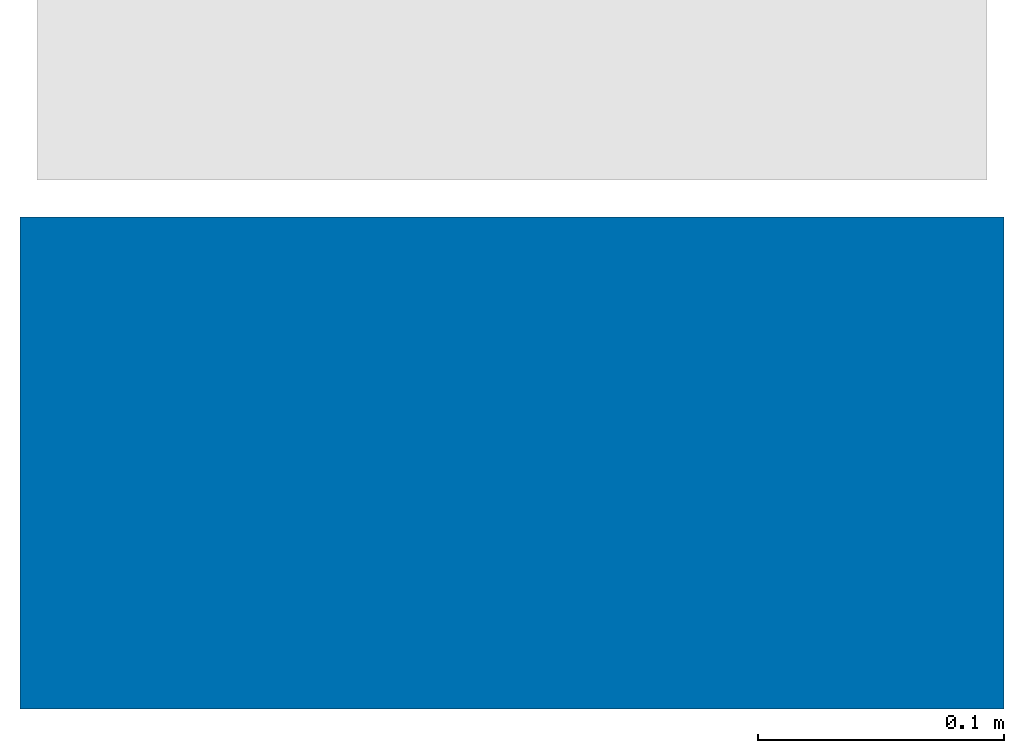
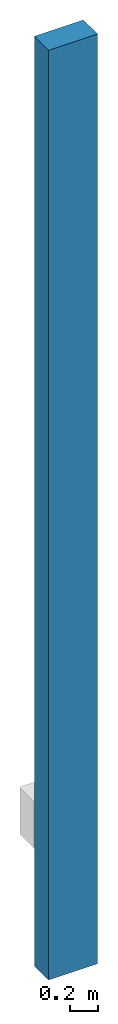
# One storey, part 1 of 2: 1 wall.
"""IFC2X3 building model written with IfcOpenShell, lengths in millimetres."""

from ifc_helpers import new_model, entity, si_unit, converted_unit, derived_unit, direction, frame, frame_2d, origin, place, context, subcontext, project, spatial, rectangle, extrude, material, layer, layer_set, layer_usage, type_object, element, save


model = new_model("IFC2X3")

# Units and contexts
model_context = context("Model", 3, precision=0.01, world=origin(), true_north=direction((6.12303176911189e-17, 1.0)))
context_of_model = context(None, 3, precision=0.01, world=origin(), true_north=direction((6.12303176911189e-17, 1.0)))
body_context = subcontext(model_context, "Body", "Model", "MODEL_VIEW")
ifc_project = project(units=[si_unit("LENGTHUNIT", "METRE", prefix="MILLI"), si_unit("AREAUNIT", "SQUARE_METRE"), si_unit("VOLUMEUNIT", "CUBIC_METRE"), converted_unit("PLANEANGLEUNIT", "DEGREE", entity("IfcRatioMeasure", 0.0174532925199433), si_unit("PLANEANGLEUNIT", "RADIAN"), dimensions=[0, 0, 0, 0, 0, 0, 0]), si_unit("MASSUNIT", "GRAM", prefix="KILO"), si_unit("TIMEUNIT", "SECOND"), si_unit("FREQUENCYUNIT", "HERTZ"), si_unit("THERMODYNAMICTEMPERATUREUNIT", "DEGREE_CELSIUS"), derived_unit("THERMALTRANSMITTANCEUNIT", [(si_unit("MASSUNIT", "GRAM", prefix="KILO"), 1), (si_unit("THERMODYNAMICTEMPERATUREUNIT", "KELVIN"), -1), (si_unit("TIMEUNIT", "SECOND"), -3)]), derived_unit("VOLUMETRICFLOWRATEUNIT", [(si_unit("LENGTHUNIT", "METRE"), 3), (si_unit("TIMEUNIT", "SECOND"), -1)]), si_unit("ELECTRICCURRENTUNIT", "AMPERE"), si_unit("ELECTRICVOLTAGEUNIT", "VOLT"), si_unit("POWERUNIT", "WATT"), si_unit("FORCEUNIT", "NEWTON", prefix="KILO"), si_unit("ILLUMINANCEUNIT", "LUX"), si_unit("LUMINOUSFLUXUNIT", "LUMEN"), si_unit("LUMINOUSINTENSITYUNIT", "CANDELA"), si_unit("PRESSUREUNIT", "PASCAL")], contexts=[model_context, context_of_model])

# Site, building, storey
site_placement = place(None, origin())
site = spatial("IfcSite", under=ifc_project, at=site_placement, Name="Default", CompositionType="ELEMENT")
building_placement = place(site_placement, origin())
building = spatial("IfcBuilding", under=site, at=building_placement, CompositionType="ELEMENT")
storey_placement = place(building_placement, origin())
storey = spatial("IfcBuildingStorey", under=building, at=storey_placement, Name="Level 1", CompositionType="ELEMENT", Elevation=0.0)

# Wall
ifc_material = material(Name="Default Wall")
ifc_layer = layer(ifc_material, 200.0)
ifc_layer_set = layer_set([ifc_layer], Name="Basic Wall:Generic - 200mm")
ifc_layer_usage = layer_usage(ifc_layer_set, "AXIS2", "NEGATIVE", 100.0)
wall_type = type_object("IfcWallType", Name="Basic Wall:Generic - 200mm", PredefinedType="STANDARD", material=ifc_layer_set)
wall_placement = place(storey_placement, frame((-407.095751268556, -849.514920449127, 0.0)))
element("IfcWallStandardCase", 1, at=wall_placement, inside=storey, type_object=wall_type, material=ifc_layer_usage, Name="Basic Wall:Generic - 200mm", ObjectType="Basic Wall:Generic - 200mm:249", context=body_context, shape_type="SweptSolid", body=[
    extrude(rectangle(XDim=400.0, YDim=200.0, at=frame_2d((200.0, -2.1316282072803e-14), x_axis=(-1.0, 0.0))), origin(), (0.0, 0.0, 1.0), 8000.0),
])

save(model, "model.ifc")
